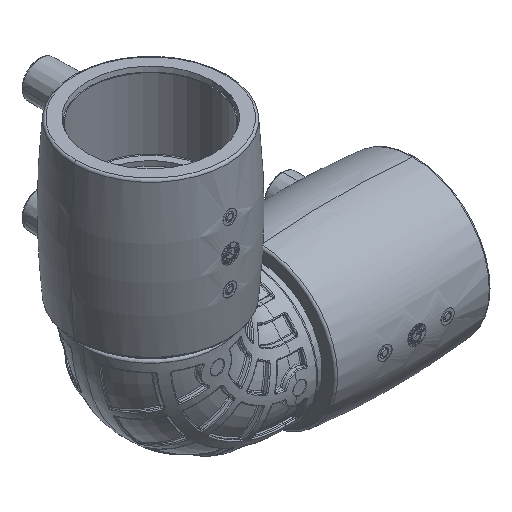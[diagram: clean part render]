
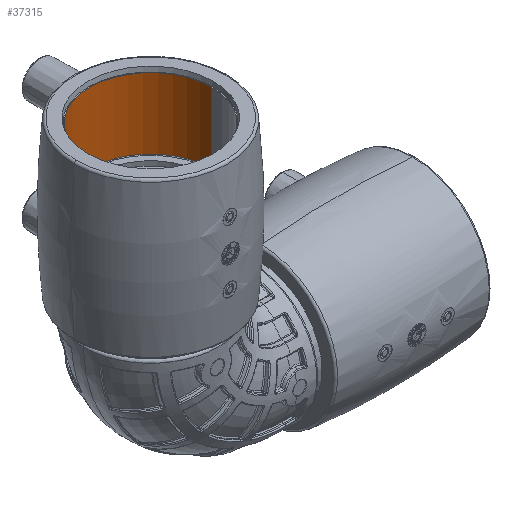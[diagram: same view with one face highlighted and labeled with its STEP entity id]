
A CAD part, isometric view. The second image highlights one B-rep face of the part: STEP entity #37315.
In plain terms, the highlighted cylindrical face has radius 27.3 mm (diameter 54.6 mm), a partial arc.
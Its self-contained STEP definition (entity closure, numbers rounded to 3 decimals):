
#925 = EDGE_CURVE ( 'NONE', #58995, #43844, #21959, .T. ) ;
#2237 = CIRCLE ( 'NONE', #57117, 27.3 ) ;
#2508 = EDGE_CURVE ( 'NONE', #22971, #59309, #53635, .T. ) ;
#3541 = DIRECTION ( 'NONE',  ( 0., 0., -1. ) ) ;
#10368 = ORIENTED_EDGE ( 'NONE', *, *, #13738, .T. ) ;
#12429 = CARTESIAN_POINT ( 'NONE',  ( 32.7, 0., -27.3 ) ) ;
#13679 = DIRECTION ( 'NONE',  ( 0., 0., 1. ) ) ;
#13738 = EDGE_CURVE ( 'NONE', #22971, #58995, #2237, .T. ) ;
#14990 = FACE_OUTER_BOUND ( 'NONE', #19941, .T. ) ;
#17157 = DIRECTION ( 'NONE',  ( 0., 0., 1. ) ) ;
#17646 = DIRECTION ( 'NONE',  ( -1., 0., 0. ) ) ;
#19941 = EDGE_LOOP ( 'NONE', ( #55405, #10368, #72527, #64189 ) ) ;
#20461 = DIRECTION ( 'NONE',  ( -1., 0., 0. ) ) ;
#21906 = CARTESIAN_POINT ( 'NONE',  ( 1.3, 0., 27.3 ) ) ;
#21959 = LINE ( 'NONE', #34309, #30684 ) ;
#22340 = CIRCLE ( 'NONE', #54420, 27.3 ) ;
#22658 = CARTESIAN_POINT ( 'NONE',  ( 1.3, 0., -27.3 ) ) ;
#22782 = EDGE_CURVE ( 'NONE', #43844, #59309, #22340, .T. ) ;
#22971 = VERTEX_POINT ( 'NONE', #42263 ) ;
#30684 = VECTOR ( 'NONE', #71178, 1000. ) ;
#34309 = CARTESIAN_POINT ( 'NONE',  ( 32.7, 0., 27.3 ) ) ;
#37315 = ADVANCED_FACE ( 'NONE', ( #14990 ), #52976, .F. ) ;
#42263 = CARTESIAN_POINT ( 'NONE',  ( 32.7, 0., -27.3 ) ) ;
#43844 = VERTEX_POINT ( 'NONE', #21906 ) ;
#44024 = CARTESIAN_POINT ( 'NONE',  ( 32.7, 0., 0. ) ) ;
#44513 = CARTESIAN_POINT ( 'NONE',  ( 32.7, 0., 27.3 ) ) ;
#49163 = AXIS2_PLACEMENT_3D ( 'NONE', #44024, #20461, #13679 ) ;
#52051 = CARTESIAN_POINT ( 'NONE',  ( 1.3, 0., 0. ) ) ;
#52976 = CYLINDRICAL_SURFACE ( 'NONE', #49163, 27.3 ) ;
#53635 = LINE ( 'NONE', #12429, #62943 ) ;
#53936 = DIRECTION ( 'NONE',  ( -1., 0., 0. ) ) ;
#54420 = AXIS2_PLACEMENT_3D ( 'NONE', #52051, #53936, #17157 ) ;
#55405 = ORIENTED_EDGE ( 'NONE', *, *, #2508, .F. ) ;
#57117 = AXIS2_PLACEMENT_3D ( 'NONE', #75091, #58320, #3541 ) ;
#58320 = DIRECTION ( 'NONE',  ( 1., 0., 0. ) ) ;
#58995 = VERTEX_POINT ( 'NONE', #44513 ) ;
#59309 = VERTEX_POINT ( 'NONE', #22658 ) ;
#62943 = VECTOR ( 'NONE', #17646, 1000. ) ;
#64189 = ORIENTED_EDGE ( 'NONE', *, *, #22782, .T. ) ;
#71178 = DIRECTION ( 'NONE',  ( -1., 0., 0. ) ) ;
#72527 = ORIENTED_EDGE ( 'NONE', *, *, #925, .T. ) ;
#75091 = CARTESIAN_POINT ( 'NONE',  ( 32.7, 0., 0. ) ) ;
